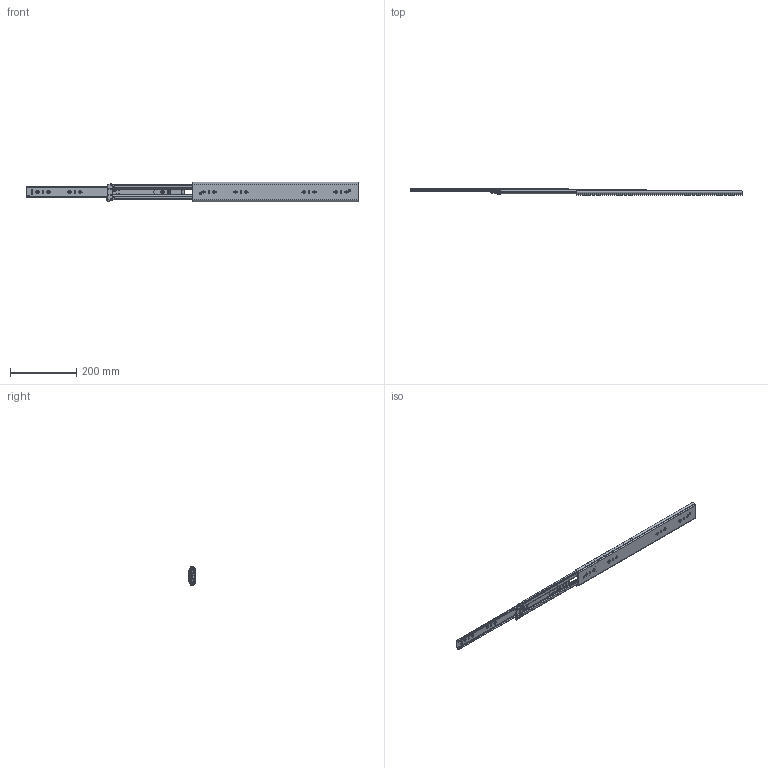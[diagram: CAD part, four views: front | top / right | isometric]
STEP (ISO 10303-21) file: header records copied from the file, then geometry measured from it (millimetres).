
FILE_DESCRIPTION((''),'2;1');
FILE_NAME('1057-C-20_ASM','2025-10-23T',('蔽翩'),(''),'CREO PARAMETRIC BY PTC INC, 2018220','CREO PARAMETRIC BY PTC INC, 2018220','');
FILE_SCHEMA(('CONFIG_CONTROL_DESIGN'));
Products named in the file (21): KP-57-01WEIKE-31; MAODING-WAI; 1057DAZHUJIA-20GE1; 1057ZHUJIADANWEIJIAO12______; 1057-5-6GANZHU1; 1057DAZHUJIA-20GE_11____ASM; 1057-C-20-KE_ASM; KP-57-01ZHONGGUI-28_____; PEIJIAN-22; ZHUANJIAO112; LIUJIAO-DING11; 1057-C-LUN; DINGZI; PEIJIAN-ZHONG_ASM; 1057XIAOZHUJIA___20_; 1057XIAOZHUJIA-20GE__ASM; KP-57-01ZHONGGUI-28______ASM; KP-57-01NEIGUI-241; XIN-JIAOGUAN44; KP-57-01NEIGUI-241_ASM; 1057-C-20_ASM
Assembly tree (83 placements, depth 4):
  1057-C-20_ASM
    1057-C-20-KE_ASM
      KP-57-01WEIKE-31
      MAODING-WAI  x2
      1057DAZHUJIA-20GE_11____ASM
        1057DAZHUJIA-20GE1
        1057ZHUJIADANWEIJIAO12______  x2
        1057-5-6GANZHU1  x28
    KP-57-01ZHONGGUI-28______ASM
      KP-57-01ZHONGGUI-28_____
      PEIJIAN-ZHONG_ASM  x2
        PEIJIAN-22
        ZHUANJIAO112
        LIUJIAO-DING11
        1057-C-LUN
        DINGZI
      MAODING-WAI  x2
      1057XIAOZHUJIA-20GE__ASM
        1057XIAOZHUJIA___20_
        1057-5-6GANZHU1  x28
        1057ZHUJIADANWEIJIAO12______  x2
    KP-57-01NEIGUI-241_ASM
      KP-57-01NEIGUI-241
      XIN-JIAOGUAN44  x2
Bounding box: 1000 x 19.8 x 57.67 mm (x, y, z)
Volume: 209401.8 mm3; surface area: 241318.1 mm2
Topology: 81 solids, 81 shells, 2434 faces, 6678 edges, 4178 vertices
Faces by surface type: plane 1086, cylinder 954, sphere 118, torus 104, cone 82, bspline 82, extrusion 8
Entity records: 65440 total; most frequent: CARTESIAN_POINT 14382, DIRECTION 10819, ORIENTED_EDGE 10572, EDGE_CURVE 5286, AXIS2_PLACEMENT_3D 3773, VERTEX_POINT 3407, VECTOR 3273, LINE 3269
